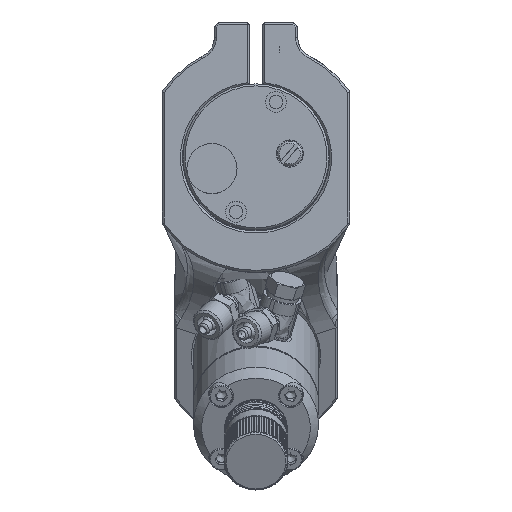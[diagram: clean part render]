
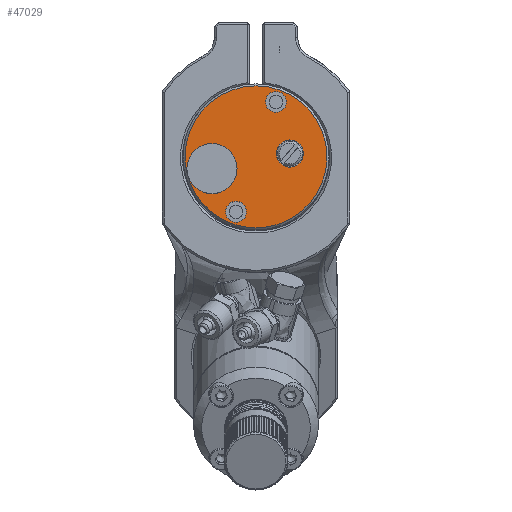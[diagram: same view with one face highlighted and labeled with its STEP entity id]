
A CAD part, top view. The second image highlights one B-rep face of the part: STEP entity #47029.
In plain terms, the highlighted planar face has unit normal (0, 0, 1).
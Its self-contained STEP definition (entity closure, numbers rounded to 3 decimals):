
#1377 = EDGE_CURVE ( 'NONE', #27289, #27289, #11993, .T. ) ;
#3286 = CIRCLE ( 'NONE', #32664, 3.25 ) ;
#4759 = CARTESIAN_POINT ( 'NONE',  ( -83.856, 21.994, 120.533 ) ) ;
#5128 = AXIS2_PLACEMENT_3D ( 'NONE', #44338, #37577, #11727 ) ;
#5526 = EDGE_LOOP ( 'NONE', ( #45972 ) ) ;
#6078 = ORIENTED_EDGE ( 'NONE', *, *, #32850, .T. ) ;
#6890 = CARTESIAN_POINT ( 'NONE',  ( -79.067, 35.15, 120.533 ) ) ;
#8111 = FACE_OUTER_BOUND ( 'NONE', #35516, .T. ) ;
#8753 = EDGE_CURVE ( 'NONE', #14696, #14696, #22973, .T. ) ;
#9039 = DIRECTION ( 'NONE',  ( 0., 0., -1. ) ) ;
#11727 = DIRECTION ( 'NONE',  ( 1., 0., 0. ) ) ;
#11993 = CIRCLE ( 'NONE', #24336, 2.5 ) ;
#13036 = EDGE_CURVE ( 'NONE', #39945, #39945, #41173, .T. ) ;
#13632 = EDGE_LOOP ( 'NONE', ( #29103 ) ) ;
#14696 = VERTEX_POINT ( 'NONE', #18787 ) ;
#16996 = DIRECTION ( 'NONE',  ( 1., 0., 0. ) ) ;
#18787 = CARTESIAN_POINT ( 'NONE',  ( -83.856, 38.994, 120.533 ) ) ;
#19885 = AXIS2_PLACEMENT_3D ( 'NONE', #4759, #34230, #29663 ) ;
#20270 = CARTESIAN_POINT ( 'NONE',  ( -76.567, 35.15, 120.533 ) ) ;
#21637 = DIRECTION ( 'NONE',  ( 0., 0., -1. ) ) ;
#22830 = FACE_BOUND ( 'NONE', #23008, .T. ) ;
#22973 = CIRCLE ( 'NONE', #19885, 17. ) ;
#23008 = EDGE_LOOP ( 'NONE', ( #6078 ) ) ;
#24085 = CARTESIAN_POINT ( 'NONE',  ( -86.144, 8.838, 120.533 ) ) ;
#24336 = AXIS2_PLACEMENT_3D ( 'NONE', #6890, #21637, #32742 ) ;
#25190 = DIRECTION ( 'NONE',  ( 1., 0., 0. ) ) ;
#25732 = PLANE ( 'NONE',  #5128 ) ;
#25790 = ORIENTED_EDGE ( 'NONE', *, *, #8753, .F. ) ;
#26456 = FACE_BOUND ( 'NONE', #5526, .T. ) ;
#27289 = VERTEX_POINT ( 'NONE', #20270 ) ;
#29103 = ORIENTED_EDGE ( 'NONE', *, *, #1377, .T. ) ;
#29663 = DIRECTION ( 'NONE',  ( 0., 1., 0. ) ) ;
#31658 = CARTESIAN_POINT ( 'NONE',  ( -72.505, 22.791, 120.533 ) ) ;
#32664 = AXIS2_PLACEMENT_3D ( 'NONE', #46460, #9039, #16996 ) ;
#32742 = DIRECTION ( 'NONE',  ( 1., 0., 0. ) ) ;
#32850 = EDGE_CURVE ( 'NONE', #35275, #35275, #3286, .T. ) ;
#33479 = FACE_BOUND ( 'NONE', #13632, .T. ) ;
#34230 = DIRECTION ( 'NONE',  ( 0., 0., -1. ) ) ;
#35275 = VERTEX_POINT ( 'NONE', #31658 ) ;
#35516 = EDGE_LOOP ( 'NONE', ( #25790 ) ) ;
#37577 = DIRECTION ( 'NONE',  ( 0., 0., 1. ) ) ;
#39945 = VERTEX_POINT ( 'NONE', #24085 ) ;
#40663 = DIRECTION ( 'NONE',  ( 0., 0., -1. ) ) ;
#41173 = CIRCLE ( 'NONE', #47329, 2.5 ) ;
#44048 = CARTESIAN_POINT ( 'NONE',  ( -88.644, 8.838, 120.533 ) ) ;
#44338 = CARTESIAN_POINT ( 'NONE',  ( -83.856, 21.994, 120.533 ) ) ;
#45972 = ORIENTED_EDGE ( 'NONE', *, *, #13036, .T. ) ;
#46460 = CARTESIAN_POINT ( 'NONE',  ( -75.755, 22.791, 120.533 ) ) ;
#47029 = ADVANCED_FACE ( 'NONE', ( #8111, #22830, #33479, #26456 ), #25732, .T. ) ;
#47329 = AXIS2_PLACEMENT_3D ( 'NONE', #44048, #40663, #25190 ) ;
